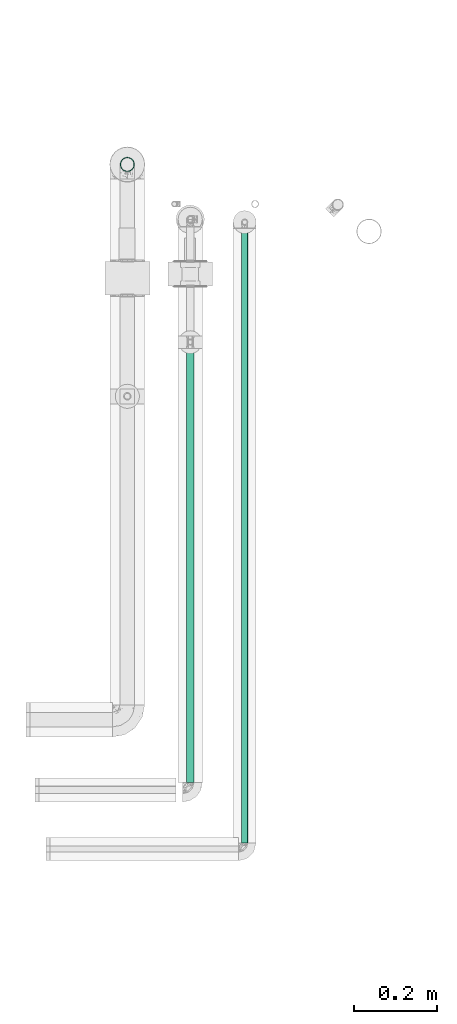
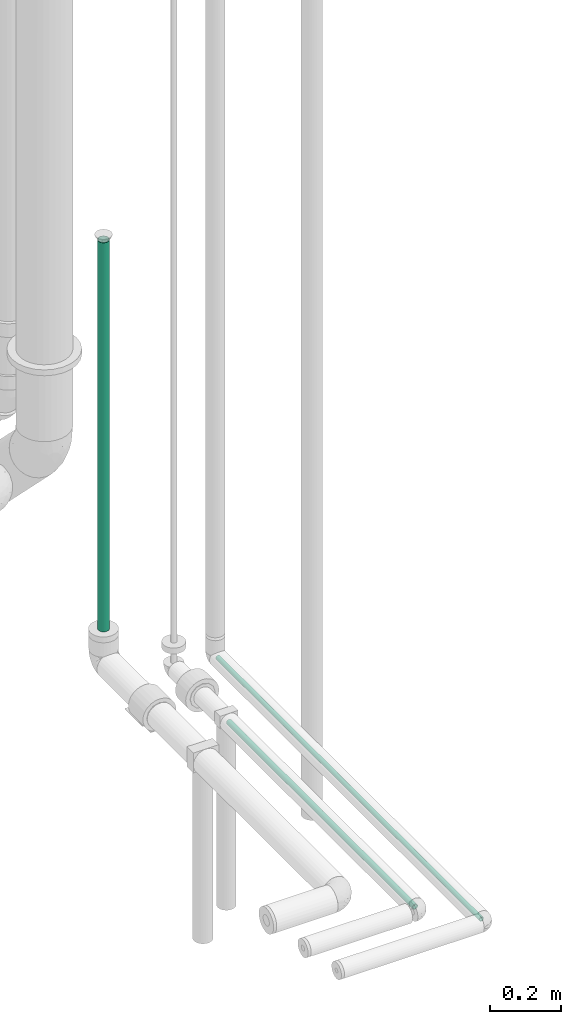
# One storey, part 17 of 78: 3 flow segments.
"""IFC2X3 building model written with IfcOpenShell, lengths in millimetres."""

from ifc_helpers import new_model, entity, si_unit, converted_unit, derived_unit, direction, frame, origin_with_axes, origin_2d_with_axis, place, context, subcontext, project, spatial, hollow_circle, extrude, source, transform, mapped, type_object, element, save


model = new_model("IFC2X3")

# Units and contexts
model_context = context("Model", 3, precision=0.01, world=frame((0.0, 4.29681676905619e-09, 0.0)), true_north=direction((4.01073788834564e-13, 1.0)))
plan_context = context("Plan", 3, precision=0.01, world=frame((0.0, 4.29681676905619e-09, 0.0)), true_north=direction((4.01073788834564e-13, 1.0)))
body_context = subcontext(model_context, "Body", "Model", "MODEL_VIEW")
ifc_project = project(units=[converted_unit("PLANEANGLEUNIT", "DEGREE", entity("IfcPositiveLengthMeasure", 0.0174532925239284), si_unit("PLANEANGLEUNIT", "RADIAN"), dimensions=[0, 0, 0, 0, 0, 0, 0]), si_unit("AREAUNIT", "SQUARE_METRE"), si_unit("LENGTHUNIT", "METRE", prefix="MILLI"), si_unit("MASSUNIT", "GRAM", prefix="KILO"), si_unit("POWERUNIT", "WATT"), si_unit("PRESSUREUNIT", "PASCAL"), si_unit("FORCEUNIT", "NEWTON", prefix="KILO"), si_unit("ELECTRICVOLTAGEUNIT", "VOLT"), si_unit("ELECTRICCURRENTUNIT", "AMPERE"), si_unit("THERMODYNAMICTEMPERATUREUNIT", "DEGREE_CELSIUS"), si_unit("TIMEUNIT", "SECOND"), si_unit("VOLUMEUNIT", "CUBIC_METRE"), derived_unit("LINEARVELOCITYUNIT", [(si_unit("LENGTHUNIT", "METRE"), 1), (si_unit("TIMEUNIT", "SECOND"), -1)]), derived_unit("VOLUMETRICFLOWRATEUNIT", [(si_unit("VOLUMEUNIT", "CUBIC_METRE"), 1), (si_unit("TIMEUNIT", "SECOND"), -1)]), derived_unit("THERMALTRANSMITTANCEUNIT", [(si_unit("POWERUNIT", "WATT"), 1), (si_unit("THERMODYNAMICTEMPERATUREUNIT", "KELVIN"), -1), (si_unit("AREAUNIT", "SQUARE_METRE"), -1)]), derived_unit("SOUNDPRESSUREUNIT", [(si_unit("PRESSUREUNIT", "PASCAL"), 1)])], contexts=[model_context, plan_context])

# Site, building, storey
site_placement = place(None, frame((0.0, -4.29681676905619e-09, 0.0), z_axis=(0.0, 0.0, 1.0), x_axis=(1.0, 0.0, 0.0)))
site = spatial("IfcSite", under=ifc_project, at=site_placement, Name="ENGM", CompositionType="ELEMENT")
building_placement = place(site_placement, frame((0.0, 4.29681676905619e-09, 0.0), z_axis=(0.0, 0.0, 1.0), x_axis=(1.0, 0.0, 0.0)))
building = spatial("IfcBuilding", under=site, at=building_placement, Name="TH", CompositionType="ELEMENT")
storey_placement = place(building_placement, frame((0.0, 0.0, 205200.0), z_axis=(0.0, 0.0, 1.0), x_axis=(1.0, 0.0, 0.0)))
storey = spatial("IfcBuildingStorey", under=building, at=storey_placement, Name="Nivå D + 1,2 m", CompositionType="ELEMENT", Elevation=205200.0)

# Flow segments
pipe_segment_type = type_object("IfcPipeSegmentType", Name="Kobberrør", PredefinedType="RIGIDSEGMENT")
shared_shape_1 = source(origin_with_axes(), body_context, "Body", "SweptSolid", [
    extrude(hollow_circle(Radius=17.5, WallThickness=2.0, at=origin_2d_with_axis()), frame((0.0, 0.0, 0.0), z_axis=(1.0, 0.0, 0.0), x_axis=(0.0, 1.0, 0.0)), (0.0, 0.0, 1.0), 1330.0),
])
flow_segment_1_placement = place(storey_placement, frame((895369.5, 478680.9125, 4555.0), z_axis=(1.0, 0.0, 0.0), x_axis=(0.0, 0.0, 1.0)))
element("IfcFlowSegment", 1, at=flow_segment_1_placement, inside=storey, type_object=pipe_segment_type, Name="Kobberrør", context=body_context, shape_type="MappedRepresentation", body=[
    mapped(shared_shape_1, transform((0.0, 0.0, 0.0), scale=1.0)),
])
shared_shape_2 = source(origin_with_axes(), body_context, "Body", "SweptSolid", [
    extrude(hollow_circle(Radius=9.0, WallThickness=2.0, at=origin_2d_with_axis()), frame((0.0, 0.0, 0.0), z_axis=(1.0, 0.0, 0.0), x_axis=(0.0, 1.0, 0.0)), (0.0, 0.0, 1.0), 1041.7),
])
flow_segment_2_placement = place(storey_placement, frame((895520.48466, 478239.37338, 4450.0), z_axis=(0.0, 0.0, 1.0), x_axis=(0.0, -1.0, 0.0)))
element("IfcFlowSegment", 2, at=flow_segment_2_placement, inside=storey, type_object=pipe_segment_type, Name="Kobberrør", context=body_context, shape_type="MappedRepresentation", body=[
    mapped(shared_shape_2, transform((0.0, 0.0, 0.0), scale=1.0)),
])
shared_shape_3 = source(origin_with_axes(), body_context, "Body", "SweptSolid", [
    extrude(hollow_circle(Radius=7.5, WallThickness=2.0, at=origin_2d_with_axis()), frame((0.0, 0.0, 0.0), z_axis=(1.0, 0.0, 0.0), x_axis=(0.0, 1.0, 0.0)), (0.0, 0.0, 1.0), 1474.9),
])
flow_segment_3_placement = place(storey_placement, frame((895651.15, 478527.5375, 4450.0), z_axis=(0.0, 0.0, 1.0), x_axis=(0.0, -1.0, 0.0)))
element("IfcFlowSegment", 3, at=flow_segment_3_placement, inside=storey, type_object=pipe_segment_type, Name="Kobberrør", context=body_context, shape_type="MappedRepresentation", body=[
    mapped(shared_shape_3, transform((0.0, 0.0, 0.0), scale=1.0)),
])

save(model, "model.ifc")
